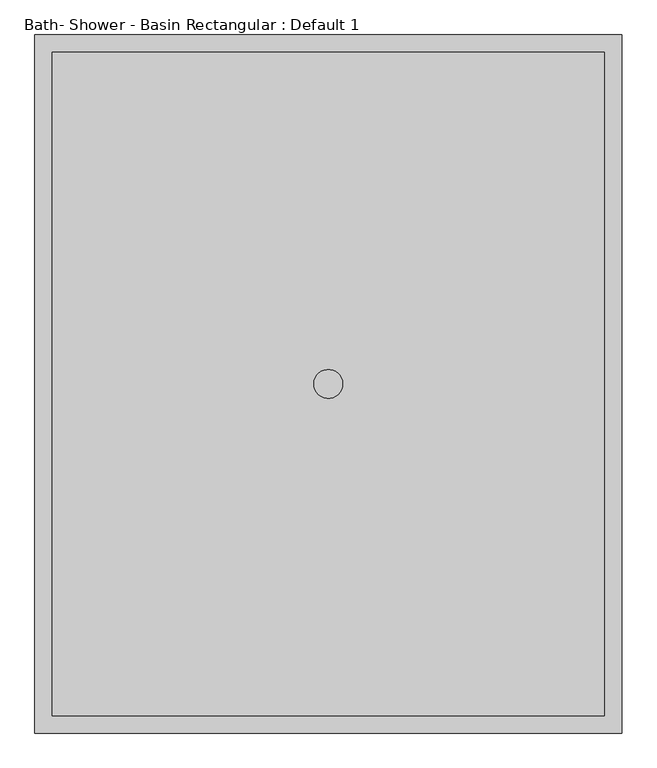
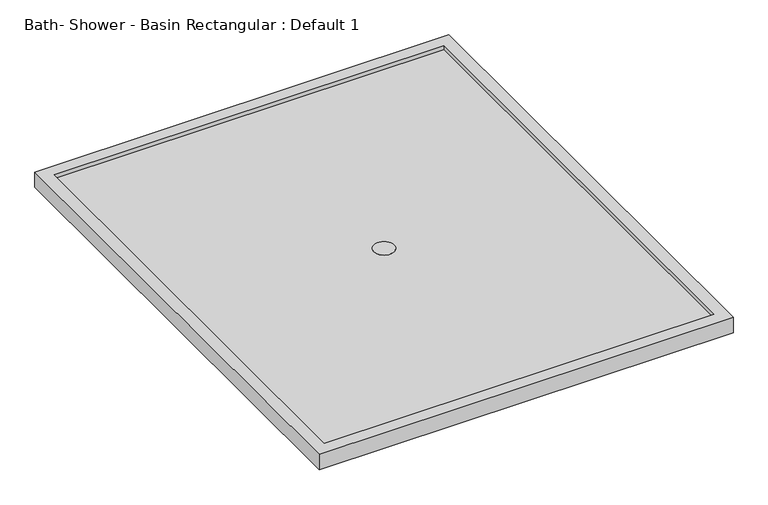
"""IFC4 building model written with IfcOpenShell, lengths in millimetres: flow terminal geometry, Bath- Shower - Basin Rectangular : Default 1."""

from ifc_helpers import new_model, si_unit, point, frame_2d, origin, origin_with_axes, place, context, project, spatial, circle_curve, trimmed, segment, composite_curve, outline, extrude, faceted_brep, source, transform, mapped, element, save


def bath_shower_basin_rectangular_default_1_6c549e84(model_context):
    return source(origin(), model_context, "Body", "SolidModel", [
        extrude(outline(composite_curve([segment(trimmed(circle_curve(frame_2d((0.1, 0.15)), 31.75), [point((-31.65, 0.15))], [point((31.85, 0.15))], False, "CARTESIAN"), True, "CONTINUOUS"), segment(trimmed(circle_curve(frame_2d((0.1, 0.15)), 31.75), [point((31.85, 0.15))], [point((-31.65, 0.15))], False, "CARTESIAN"), True, "CONTINUOUS")], self_intersect=False)), origin_with_axes(), (0.0, 0.0, 1.0), 38.1),
        faceted_brep([(648.1, 770.55, 50.8), (-648.1, 770.55, 50.8), (-648.1, -770.55, 50.8), (648.1, -770.55, 50.8), (-610.0, 732.45, 50.8), (610.0, 732.45, 50.8), (610.0, -732.45, 50.8), (-610.0, -732.45, 50.8), (648.1, 770.55, 0.0), (648.1, -770.55, 0.0), (-648.1, -770.55, 0.0), (-648.1, 770.55, 0.0), (610.0, 732.45, 38.1), (-610.0, 732.45, 38.1), (-610.0, -732.45, 38.1), (610.0, -732.45, 38.1)], [[[0, 1, 2, 3], [4, 5, 6, 7]], [[8, 9, 10, 11]], [[1, 0, 8, 11]], [[2, 1, 11, 10]], [[3, 2, 10, 9]], [[0, 3, 9, 8]], [[12, 13, 14, 15]], [[13, 12, 5, 4]], [[14, 13, 4, 7]], [[15, 14, 7, 6]], [[12, 15, 6, 5]]]),
    ])


if __name__ == "__main__":
    model = new_model("IFC4")
    model_context = context("Model", 3, world=origin())
    ifc_project = project(units=[si_unit("LENGTHUNIT", "METRE", prefix="MILLI")], contexts=[model_context])
    site = spatial("IfcSite", under=ifc_project)
    building = spatial("IfcBuilding", under=site)
    placement = place(None, origin())
    bath_shower_basin_rectangular_default_1_shape = bath_shower_basin_rectangular_default_1_6c549e84(model_context)
    element("IfcFlowTerminal", 1, ObjectType="Bath- Shower - Basin Rectangular : Default 1", at=placement, inside=building, context=model_context, shape_type="MappedRepresentation", body=[
        mapped(bath_shower_basin_rectangular_default_1_shape, transform((0.0, 0.0, 0.0), x_axis=(1.0, 0.0, 0.0), y_axis=(0.0, 1.0, 0.0), z_axis=(0.0, 0.0, 1.0))),
    ])
    save(model, "model.ifc")
